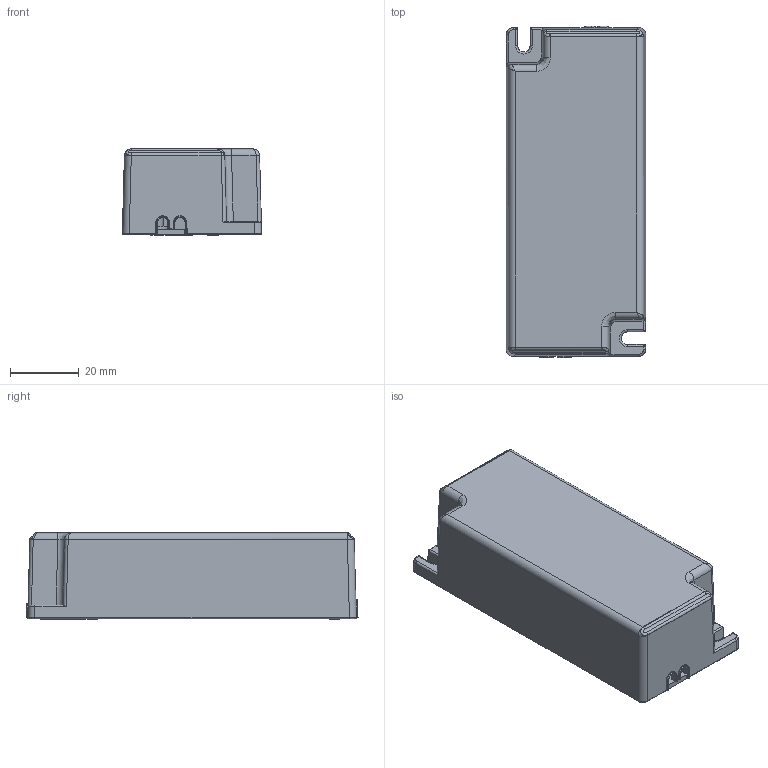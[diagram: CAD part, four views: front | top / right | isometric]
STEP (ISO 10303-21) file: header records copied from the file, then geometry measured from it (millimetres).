
FILE_DESCRIPTION(/* description */ (''),/* implementation_level */ '2;1');
FILE_NAME(/* name */ 'LPS20W-3D.stp',/* time_stamp */ '2017-08-08T13:33:19+08:00',/* author */ (''),/* organization */ (''),/* preprocessor_version */ 'ST-DEVELOPER v16',/* originating_system */ 'SIEMENS PLM Software NX 10.0',/* authorisation */ '');
FILE_SCHEMA (('AUTOMOTIVE_DESIGN { 1 0 10303 214 3 1 1 1 }'));
Length unit declared in the file: millimetre
Products named in the file (1): 11
Bounding box: 40.49 x 96.49 x 25.05 mm (x, y, z)
Volume: 19835.6 mm3; surface area: 27529 mm2
Topology: 2 solids, 2 shells, 628 faces, 1640 edges, 1044 vertices
Faces by surface type: plane 367, cylinder 100, extrusion 90, bspline 42, cone 11, sphere 10, torus 8
Entity records: 23613 total; most frequent: CARTESIAN_POINT 6619, ORIENTED_EDGE 3280, DIRECTION 2450, EDGE_CURVE 1640, VECTOR 1260, LINE 1170, VERTEX_POINT 1044, EDGE_LOOP 656
